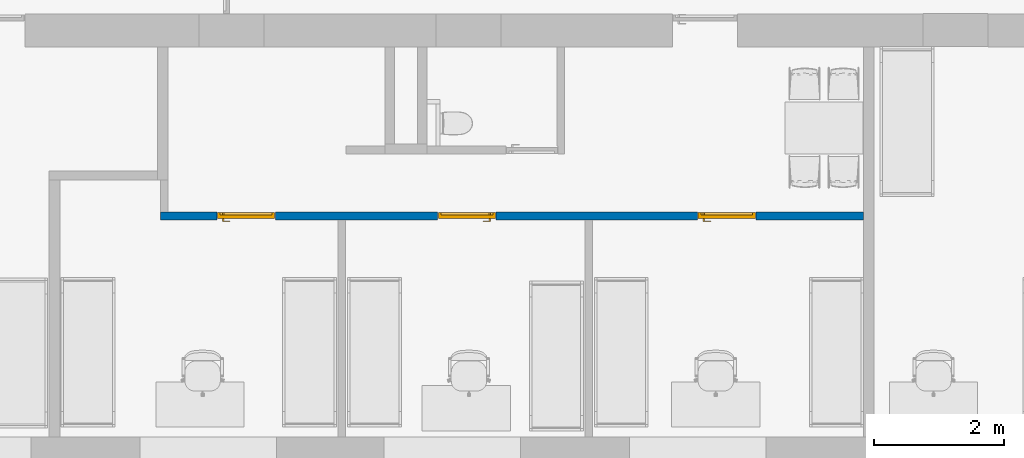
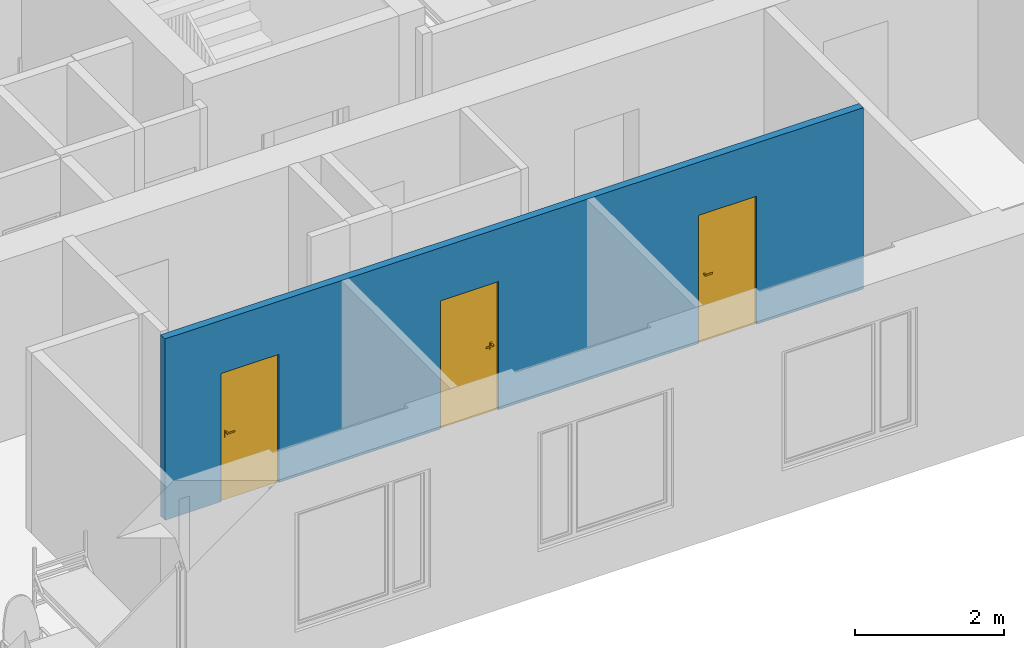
# One storey, part 2 of 48: 3 doors, 1 wall, 3 openings.
"""IFC2X3 building model written with IfcOpenShell, lengths in millimetres."""

from ifc_helpers import new_model, entity, si_unit, converted_unit, derived_unit, direction, frame, frame_2d, origin, place, context, subcontext, project, spatial, rectangle, extrude, faceted_brep, source, transform, mapped, material, material_list, layer, layer_set, layer_usage, type_object, type_shapes, element, fill, save


model = new_model("IFC2X3")

# Units and contexts
model_context = context("Model", 3, precision=0.01, world=origin(), true_north=direction((6.12303176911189e-17, 1.0)))
body_context = subcontext(model_context, "Body", "Model", "MODEL_VIEW")
ifc_project = project(units=[si_unit("LENGTHUNIT", "METRE", prefix="MILLI"), si_unit("AREAUNIT", "SQUARE_METRE"), si_unit("VOLUMEUNIT", "CUBIC_METRE"), converted_unit("PLANEANGLEUNIT", "DEGREE", entity("IfcRatioMeasure", 0.0174532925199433), si_unit("PLANEANGLEUNIT", "RADIAN"), dimensions=[0, 0, 0, 0, 0, 0, 0]), si_unit("MASSUNIT", "GRAM", prefix="KILO"), derived_unit("MASSDENSITYUNIT", [(si_unit("MASSUNIT", "GRAM", prefix="KILO"), 1), (si_unit("LENGTHUNIT", "METRE"), -3)]), si_unit("TIMEUNIT", "SECOND"), si_unit("FREQUENCYUNIT", "HERTZ"), si_unit("THERMODYNAMICTEMPERATUREUNIT", "DEGREE_CELSIUS"), derived_unit("THERMALTRANSMITTANCEUNIT", [(si_unit("MASSUNIT", "GRAM", prefix="KILO"), 1), (si_unit("THERMODYNAMICTEMPERATUREUNIT", "KELVIN"), -1), (si_unit("TIMEUNIT", "SECOND"), -3)]), derived_unit("VOLUMETRICFLOWRATEUNIT", [(si_unit("LENGTHUNIT", "METRE"), 3), (si_unit("TIMEUNIT", "SECOND"), -1)]), si_unit("ELECTRICCURRENTUNIT", "AMPERE"), si_unit("ELECTRICVOLTAGEUNIT", "VOLT"), si_unit("POWERUNIT", "WATT"), si_unit("FORCEUNIT", "NEWTON", prefix="KILO"), si_unit("ILLUMINANCEUNIT", "LUX"), si_unit("LUMINOUSFLUXUNIT", "LUMEN"), si_unit("LUMINOUSINTENSITYUNIT", "CANDELA"), derived_unit("USERDEFINED", [(si_unit("MASSUNIT", "GRAM", prefix="KILO"), -1), (si_unit("LENGTHUNIT", "METRE"), -2), (si_unit("TIMEUNIT", "SECOND"), 3), (si_unit("LUMINOUSFLUXUNIT", "LUMEN"), 1)]), derived_unit("LINEARVELOCITYUNIT", [(si_unit("LENGTHUNIT", "METRE"), 1), (si_unit("TIMEUNIT", "SECOND"), -1)]), si_unit("PRESSUREUNIT", "PASCAL"), derived_unit("USERDEFINED", [(si_unit("LENGTHUNIT", "METRE"), -2), (si_unit("MASSUNIT", "GRAM", prefix="KILO"), 1), (si_unit("TIMEUNIT", "SECOND"), -2)]), derived_unit("LINEARFORCEUNIT", [(si_unit("MASSUNIT", "GRAM", prefix="KILO"), 1), (si_unit("LENGTHUNIT", "METRE"), 1), (si_unit("TIMEUNIT", "SECOND"), -2), (si_unit("LENGTHUNIT", "METRE"), -1)]), derived_unit("PLANARFORCEUNIT", [(si_unit("MASSUNIT", "GRAM", prefix="KILO"), 1), (si_unit("LENGTHUNIT", "METRE"), 1), (si_unit("TIMEUNIT", "SECOND"), -2), (si_unit("LENGTHUNIT", "METRE"), -2)])], contexts=[model_context])

# Site, building, storey
site_placement = place(None, origin())
site = spatial("IfcSite", under=ifc_project, at=site_placement, Name="Default", CompositionType="ELEMENT")
building_placement = place(site_placement, origin())
building = spatial("IfcBuilding", under=site, at=building_placement, Name="SMA ARH", CompositionType="ELEMENT")
storey_placement = place(building_placement, frame((0.0, 0.0, 6600.0)))
storey = spatial("IfcBuildingStorey", under=building, at=storey_placement, Name="3 Korrus", CompositionType="ELEMENT", Elevation=6599.99999999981)

# Wall, openings, doors
ifc_material_1 = material(Name="EST. Ehitusplaat. Kipsplaat")
ifc_layer_1 = layer(ifc_material_1, 12.5)
ifc_layer_2 = layer(ifc_material_1, 12.5)
ifc_material_2 = material(Name="EST. Soojustus. Mineraalvill. Default")
ifc_layer_3 = layer(ifc_material_2, 66.0)
ifc_layer_4 = layer(ifc_material_1, 12.5)
ifc_layer_5 = layer(ifc_material_1, 12.5)
ifc_layer_set = layer_set([ifc_layer_1, ifc_layer_2, ifc_layer_3, ifc_layer_4, ifc_layer_5], Name="Basic Wall:SS-05_Kips, 66mm metallkarkass")
ifc_layer_usage = layer_usage(ifc_layer_set, "AXIS2", "NEGATIVE", 58.0)
wall_type = type_object("IfcWallType", Name="Basic Wall:SS-05_Kips, 66mm metallkarkass", PredefinedType="STANDARD", material=ifc_layer_set)
wall_placement = place(storey_placement, frame((5337.75000000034, 3402.0, 0.0)))
wall = element("IfcWallStandardCase", 1, at=wall_placement, inside=storey, type_object=wall_type, material=ifc_layer_usage, Name="Basic Wall:SS-05_Kips, 66mm metallkarkass", ObjectType="Basic Wall:SS-05_Kips, 66mm metallkarkass", context=body_context, shape_type="SweptSolid", body=[
    extrude(rectangle(XDim=10820.2499999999, YDim=116.0, at=frame_2d((5410.12499999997, 5.6843418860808e-14), x_axis=(-1.0, 0.0))), origin(), (0.0, 0.0, 1.0), 2970.00000000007),
])
opening_1_placement = place(wall_placement, frame((9166.0, 58.0, 0.0)))
opening_1 = element("IfcOpeningElement", 2, at=opening_1_placement, cuts=wall, Name="SMA_D01, 1-poolne:SU-P-05 - 900x2100 TUBA:1", ObjectType="Opening", context=body_context, shape_type="SweptSolid", body=[
    extrude(rectangle(XDim=2099.99999999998, YDim=900.0, at=frame_2d((1049.99999999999, 450.000000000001), x_axis=(1.0, 0.0))), frame((0.0, 0.0, 0.0), z_axis=(0.0, -1.0, 0.0), x_axis=(0.0, 0.0, 1.0)), (0.0, 0.0, 1.0), 116.0),
])
opening_2_placement = place(wall_placement, frame((5166.0, 58.0, 0.0)))
opening_2 = element("IfcOpeningElement", 3, at=opening_2_placement, cuts=wall, Name="SMA_D01, 1-poolne:SU-P-05 - 900x2100 TUBA:1", ObjectType="Opening", context=body_context, shape_type="SweptSolid", body=[
    extrude(rectangle(XDim=2099.99999999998, YDim=900.0, at=frame_2d((1049.99999999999, 450.0), x_axis=(1.0, 0.0))), frame((0.0, 0.0, 0.0), z_axis=(0.0, -1.0, 0.0), x_axis=(0.0, 0.0, 1.0)), (0.0, 0.0, 1.0), 116.0),
])
opening_3_placement = place(wall_placement, frame((1766.0, 58.0, 0.0)))
opening_3 = element("IfcOpeningElement", 4, at=opening_3_placement, cuts=wall, Name="SMA_D01, 1-poolne:SU-P-05 - 900x2100 TUBA:1", ObjectType="Opening", context=body_context, shape_type="SweptSolid", body=[
    extrude(rectangle(XDim=2099.99999999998, YDim=900.0, at=frame_2d((1049.99999999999, 450.0), x_axis=(1.0, 0.0))), frame((0.0, 0.0, 0.0), z_axis=(0.0, -1.0, 0.0), x_axis=(0.0, 0.0, 1.0)), (0.0, 0.0, 1.0), 116.0),
])
ifc_material_3 = material(Name="EST. Metall. Alumiinium. Värvitud. RAL7023 (Concrete grey)")
ifc_material_4 = material(Name="<Unnamed>")
ifc_material_5 = material(Name="EST. Klaas. 3x. Default")
ifc_material_list_1 = material_list([ifc_material_3, ifc_material_4, ifc_material_3, ifc_material_4, ifc_material_4, ifc_material_5, ifc_material_3])
door_style_1 = type_object("IfcDoorStyle", Name="SMA_D01, 1-poolne:SU-P-05 - 900x2100 TUBA", ConstructionType="NOTDEFINED", OperationType="SINGLE_SWING_LEFT", ParameterTakesPrecedence=False, Sizeable=False, material=ifc_material_list_1)
shared_shape_1 = source(origin(), body_context, "Body", "Brep", [
    faceted_brep([(790.0, 6.0, 1112.5), (695.0, 6.0, 1112.5), (695.0, 1.0, 1112.5), (815.0, 1.0, 1112.5), (815.0, 44.0, 1112.5), (790.0, 44.0, 1112.5), (790.0, 6.0, 1087.5), (790.0, 44.0, 1087.5), (815.0, 44.0, 1087.5), (815.0, 1.0, 1087.5), (695.0, 1.0, 1087.5), (695.0, 6.0, 1087.5)], [[[0, 1, 2, 3, 4, 5]], [[6, 7, 8, 9, 10, 11]], [[5, 7, 6, 0]], [[4, 8, 7, 5]], [[3, 9, 8, 4]], [[2, 10, 9, 3]], [[1, 11, 10, 2]], [[0, 6, 11, 1]]]),
    faceted_brep([(777.500000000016, 44.0, 1137.5), (827.500000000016, 44.0, 1137.5), (827.500000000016, 46.0, 1137.5), (777.500000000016, 46.0, 1137.5), (777.500000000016, 44.0, 1017.5), (777.500000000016, 46.0, 1017.5), (827.500000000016, 46.0, 1017.5), (827.500000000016, 44.0, 1017.5)], [[[0, 1, 2, 3]], [[4, 5, 6, 7]], [[3, 5, 4, 0]], [[2, 6, 5, 3]], [[1, 7, 6, 2]], [[0, 4, 7, 1]]]),
    faceted_brep([(790.0, 136.0, 1112.5), (790.0, 98.0, 1112.5), (815.0, 98.0, 1112.5), (815.0, 141.0, 1112.5), (695.0, 141.0, 1112.5), (695.0, 136.0, 1112.5), (790.0, 136.0, 1087.5), (695.0, 136.0, 1087.5), (695.0, 141.0, 1087.5), (815.0, 141.0, 1087.5), (815.0, 98.0, 1087.5), (790.0, 98.0, 1087.5)], [[[0, 1, 2, 3, 4, 5]], [[6, 7, 8, 9, 10, 11]], [[1, 0, 6, 11]], [[2, 1, 11, 10]], [[3, 2, 10, 9]], [[4, 3, 9, 8]], [[5, 4, 8, 7]], [[0, 5, 7, 6]]]),
    faceted_brep([(777.500000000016, 98.0, 1137.5), (777.500000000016, 96.0, 1137.5), (827.500000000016, 96.0, 1137.5), (827.500000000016, 98.0, 1137.5), (777.500000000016, 98.0, 1017.5), (827.500000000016, 98.0, 1017.5), (827.500000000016, 96.0, 1017.5), (777.500000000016, 96.0, 1017.5)], [[[0, 1, 2, 3]], [[4, 5, 6, 7]], [[1, 0, 4, 7]], [[2, 1, 7, 6]], [[3, 2, 6, 5]], [[0, 3, 5, 4]]]),
    faceted_brep([(50.0, 6.0, 30.0), (50.0, 46.0, 30.0), (50.0, 46.0, 20.0), (50.0, 46.0, 0.0), (50.0, 6.0, 0.0), (850.0, 6.0, 30.0), (850.0, 6.0, 0.0), (850.0, 46.0, 0.0), (850.0, 46.0, 20.0), (850.0, 46.0, 30.0), (35.0, 46.0, 0.0), (35.0, 96.0, 0.0), (865.0, 96.0, 0.0), (865.0, 46.0, 0.0), (35.0, 96.0, 20.0), (35.0, 46.0, 20.0), (865.0, 96.0, 20.0), (865.0, 46.0, 20.0)], [[[0, 1, 2, 3, 4]], [[5, 6, 7, 8, 9]], [[4, 6, 5, 0]], [[3, 10, 11, 12, 13, 7, 6, 4]], [[9, 8, 2, 1]], [[0, 5, 9, 1]], [[14, 11, 10, 15]], [[16, 17, 13, 12]], [[15, 2, 8, 17, 16, 14]], [[10, 3, 2, 15]], [[14, 16, 12, 11]], [[17, 8, 7, 13]]]),
    faceted_brep([(10.0, 6.0, 0.0), (10.0, 96.0, 0.0), (35.0, 96.0, 0.0), (35.0, 46.0, 0.0), (50.0, 46.0, 0.0), (50.0, 6.0, 0.0), (50.0, 6.0, 2050.0), (850.0, 6.0, 2050.0), (850.0, 6.0, 0.0), (890.0, 6.0, 0.0), (890.0, 6.0, 2090.0), (10.0, 6.0, 2090.0), (50.0, 46.0, 2050.0), (35.0, 46.0, 2065.0), (865.0, 46.0, 2065.0), (865.0, 46.0, 0.0), (850.0, 46.0, 0.0), (850.0, 46.0, 2050.0), (35.0, 96.0, 2065.0), (10.0, 96.0, 2090.0), (890.0, 96.0, 2090.0), (890.0, 96.0, 0.0), (865.0, 96.0, 0.0), (865.0, 96.0, 2065.0)], [[[0, 1, 2, 3, 4, 5]], [[5, 6, 7, 8, 9, 10, 11, 0]], [[4, 12, 6, 5]], [[3, 13, 14, 15, 16, 17, 12, 4]], [[2, 18, 13, 3]], [[1, 19, 20, 21, 22, 23, 18, 2]], [[0, 11, 19, 1]], [[9, 21, 20, 10]], [[8, 16, 15, 22, 21, 9]], [[7, 17, 16, 8]], [[14, 23, 22, 15]], [[6, 12, 17, 7]], [[13, 18, 23, 14]], [[10, 20, 19, 11]]]),
    faceted_brep([(865.0, 46.0, 2065.0), (35.0, 46.0, 2065.0), (35.0, 46.0, 20.0), (865.0, 46.0, 20.0), (865.0, 96.0, 2065.0), (865.0, 96.0, 20.0), (35.0, 96.0, 20.0), (35.0, 96.0, 2065.0)], [[[0, 1, 2, 3]], [[4, 5, 6, 7]], [[3, 5, 4, 0]], [[2, 6, 5, 3]], [[1, 7, 6, 2]], [[0, 4, 7, 1]]]),
])
type_shapes(door_style_1, [shared_shape_1])
door_1_placement = place(opening_3_placement, frame((0.0, 0.0, 0.0), z_axis=(0.0, 0.0, 1.0), x_axis=(-1.0, 0.0, 0.0)))
door_1 = element("IfcDoor", 5, at=door_1_placement, inside=storey, type_object=door_style_1, material=ifc_material_3, Name="SMA_D01, 1-poolne:SU-P-05 - 900x2100 TUBA", ObjectType="SMA_D01, 1-poolne:SU-P-05 - 900x2100 TUBA", OverallHeight=2099.99999999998, OverallWidth=900.0, context=body_context, shape_type="MappedRepresentation", body=[
    mapped(shared_shape_1, transform((0.0, 0.0, 0.0), scale=1.0)),
])
fill(opening_3, door_1)
door_2_placement = place(opening_1_placement, frame((0.0, 0.0, 0.0), z_axis=(0.0, 0.0, 1.0), x_axis=(-1.0, 0.0, 0.0)))
door_2 = element("IfcDoor", 6, at=door_2_placement, inside=storey, type_object=door_style_1, material=ifc_material_3, Name="SMA_D01, 1-poolne:SU-P-05 - 900x2100 TUBA", ObjectType="SMA_D01, 1-poolne:SU-P-05 - 900x2100 TUBA", OverallHeight=2099.99999999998, OverallWidth=900.000000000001, context=body_context, shape_type="MappedRepresentation", body=[
    mapped(shared_shape_1, transform((0.0, 0.0, 0.0), scale=1.0)),
])
fill(opening_1, door_2)
ifc_material_list_2 = material_list([ifc_material_4, ifc_material_5, ifc_material_4, ifc_material_3, ifc_material_3, ifc_material_3, ifc_material_4])
door_style_2 = type_object("IfcDoorStyle", Name="SMA_D01, 1-poolne:SU-P-05 - 900x2100 TUBA", ConstructionType="NOTDEFINED", OperationType="SINGLE_SWING_RIGHT", ParameterTakesPrecedence=False, Sizeable=False, material=ifc_material_list_2)
shared_shape_2 = source(origin(), body_context, "Body", "Brep", [
    faceted_brep([(110.0, 6.0, 1112.5), (110.0, 44.0, 1112.5), (85.0, 44.0, 1112.5), (85.0, 1.0, 1112.5), (205.0, 1.0, 1112.5), (205.0, 6.0, 1112.5), (110.0, 6.0, 1087.5), (205.0, 6.0, 1087.5), (205.0, 1.0, 1087.5), (85.0, 1.0, 1087.5), (85.0, 44.0, 1087.5), (110.0, 44.0, 1087.5)], [[[0, 1, 2, 3, 4, 5]], [[6, 7, 8, 9, 10, 11]], [[1, 0, 6, 11]], [[2, 1, 11, 10]], [[3, 2, 10, 9]], [[4, 3, 9, 8]], [[5, 4, 8, 7]], [[0, 5, 7, 6]]]),
    faceted_brep([(122.5, 44.0, 1137.5), (122.5, 46.0, 1137.5), (72.5000000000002, 46.0, 1137.5), (72.5000000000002, 44.0, 1137.5), (122.5, 44.0, 1017.5), (72.5000000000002, 44.0, 1017.5), (72.5000000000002, 46.0, 1017.5), (122.5, 46.0, 1017.5)], [[[0, 1, 2, 3]], [[4, 5, 6, 7]], [[1, 0, 4, 7]], [[2, 1, 7, 6]], [[3, 2, 6, 5]], [[0, 3, 5, 4]]]),
    faceted_brep([(110.0, 136.0, 1112.5), (205.0, 136.0, 1112.5), (205.0, 141.0, 1112.5), (85.0, 141.0, 1112.5), (85.0, 98.0, 1112.5), (110.0, 98.0, 1112.5), (110.0, 136.0, 1087.5), (110.0, 98.0, 1087.5), (85.0, 98.0, 1087.5), (85.0, 141.0, 1087.5), (205.0, 141.0, 1087.5), (205.0, 136.0, 1087.5)], [[[0, 1, 2, 3, 4, 5]], [[6, 7, 8, 9, 10, 11]], [[5, 7, 6, 0]], [[4, 8, 7, 5]], [[3, 9, 8, 4]], [[2, 10, 9, 3]], [[1, 11, 10, 2]], [[0, 6, 11, 1]]]),
    faceted_brep([(122.5, 98.0, 1137.5), (72.5000000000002, 98.0, 1137.5), (72.5000000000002, 96.0, 1137.5), (122.5, 96.0, 1137.5), (122.5, 98.0, 1017.5), (122.5, 96.0, 1017.5), (72.5000000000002, 96.0, 1017.5), (72.5000000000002, 98.0, 1017.5)], [[[0, 1, 2, 3]], [[4, 5, 6, 7]], [[3, 5, 4, 0]], [[2, 6, 5, 3]], [[1, 7, 6, 2]], [[0, 4, 7, 1]]]),
    faceted_brep([(850.0, 6.0, 30.0), (850.0, 6.0, 0.0), (850.0, 46.0, 0.0), (850.0, 46.0, 20.0), (850.0, 46.0, 30.0), (50.0, 6.0, 30.0), (50.0, 46.0, 30.0), (50.0, 46.0, 20.0), (50.0, 46.0, 0.0), (50.0, 6.0, 0.0), (35.0, 46.0, 0.0), (35.0, 96.0, 0.0), (865.0, 96.0, 0.0), (865.0, 46.0, 0.0), (865.0, 96.0, 20.0), (865.0, 46.0, 20.0), (35.0, 96.0, 20.0), (35.0, 46.0, 20.0)], [[[0, 1, 2, 3, 4]], [[5, 6, 7, 8, 9]], [[1, 0, 5, 9]], [[2, 1, 9, 8, 10, 11, 12, 13]], [[6, 4, 3, 7]], [[0, 4, 6, 5]], [[14, 15, 13, 12]], [[16, 11, 10, 17]], [[15, 14, 16, 17, 7, 3]], [[13, 15, 3, 2]], [[14, 12, 11, 16]], [[17, 10, 8, 7]]]),
    faceted_brep([(890.0, 6.0, 0.0), (850.0, 6.0, 0.0), (850.0, 46.0, 0.0), (865.0, 46.0, 0.0), (865.0, 96.0, 0.0), (890.0, 96.0, 0.0), (890.0, 6.0, 2090.0), (10.0, 6.0, 2090.0), (10.0, 6.0, 0.0), (50.0, 6.0, 0.0), (50.0, 6.0, 2050.0), (850.0, 6.0, 2050.0), (850.0, 46.0, 2050.0), (50.0, 46.0, 2050.0), (50.0, 46.0, 0.0), (35.0, 46.0, 0.0), (35.0, 46.0, 2065.0), (865.0, 46.0, 2065.0), (865.0, 96.0, 2065.0), (35.0, 96.0, 2065.0), (35.0, 96.0, 0.0), (10.0, 96.0, 0.0), (10.0, 96.0, 2090.0), (890.0, 96.0, 2090.0)], [[[0, 1, 2, 3, 4, 5]], [[1, 0, 6, 7, 8, 9, 10, 11]], [[2, 1, 11, 12]], [[3, 2, 12, 13, 14, 15, 16, 17]], [[4, 3, 17, 18]], [[5, 4, 18, 19, 20, 21, 22, 23]], [[0, 5, 23, 6]], [[8, 7, 22, 21]], [[9, 8, 21, 20, 15, 14]], [[10, 9, 14, 13]], [[16, 15, 20, 19]], [[11, 10, 13, 12]], [[17, 16, 19, 18]], [[7, 6, 23, 22]]]),
    faceted_brep([(35.0, 46.0, 2065.0), (35.0, 46.0, 20.0), (865.0, 46.0, 20.0), (865.0, 46.0, 2065.0), (35.0, 96.0, 2065.0), (865.0, 96.0, 2065.0), (865.0, 96.0, 20.0), (35.0, 96.0, 20.0)], [[[0, 1, 2, 3]], [[4, 5, 6, 7]], [[1, 0, 4, 7]], [[2, 1, 7, 6]], [[3, 2, 6, 5]], [[0, 3, 5, 4]]]),
])
type_shapes(door_style_2, [shared_shape_2])
door_3_placement = place(opening_2_placement, frame((0.0, 0.0, 0.0), z_axis=(0.0, 0.0, 1.0), x_axis=(-1.0, 0.0, 0.0)))
door_3 = element("IfcDoor", 7, at=door_3_placement, inside=storey, type_object=door_style_2, material=ifc_material_3, Name="SMA_D01, 1-poolne:SU-P-05 - 900x2100 TUBA", ObjectType="SMA_D01, 1-poolne:SU-P-05 - 900x2100 TUBA", OverallHeight=2099.99999999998, OverallWidth=900.0, context=body_context, shape_type="MappedRepresentation", body=[
    mapped(shared_shape_2, transform((0.0, 0.0, 0.0), scale=1.0)),
])
fill(opening_2, door_3)

save(model, "model.ifc")
